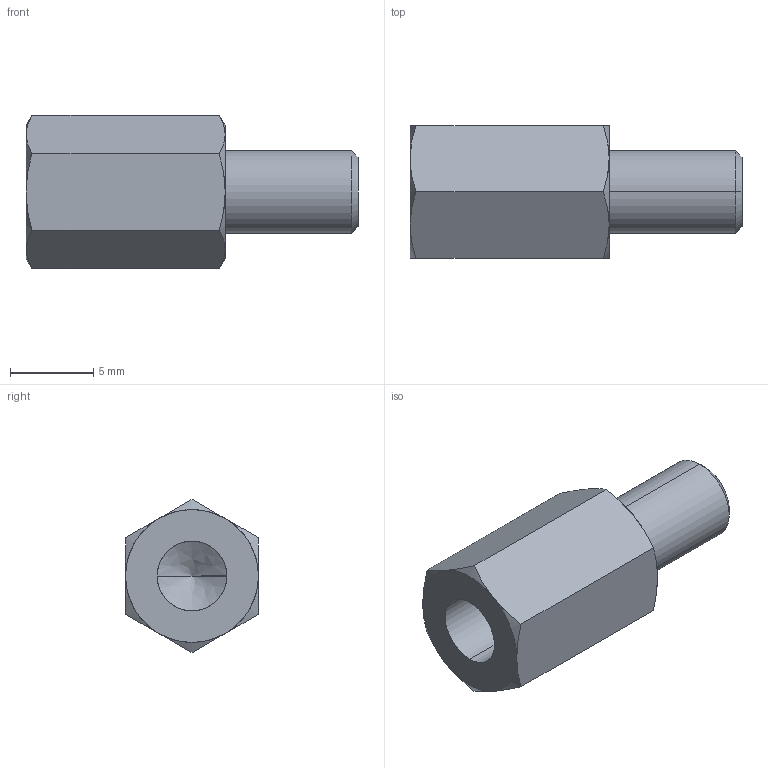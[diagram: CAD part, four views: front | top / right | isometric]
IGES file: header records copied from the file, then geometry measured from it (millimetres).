
Start section: SolidWorks IGES file using analytic representation for surfaces
Global section: file name: C:\Users\render1\Desktop\P0185_IGES\P0185.05-12.igs; native system: SolidWorks 2009; preprocessor: SolidWorks 2009; author: render1; date: 130627.112416; units: millimetre
Bounding box: 20 x 8 x 9.24 mm (x, y, z)
Surface area: 667.7 mm2 (no closed solid volume)
Topology: 0 solids, 0 shells, 29 faces, 324 edges, 322 vertices
Faces by surface type: revolution 20, bspline 9
